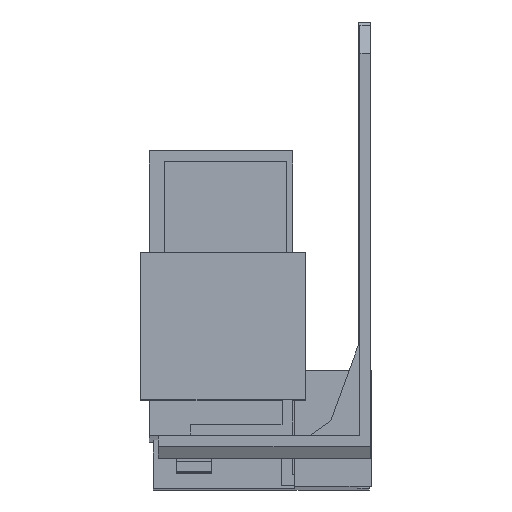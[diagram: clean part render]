
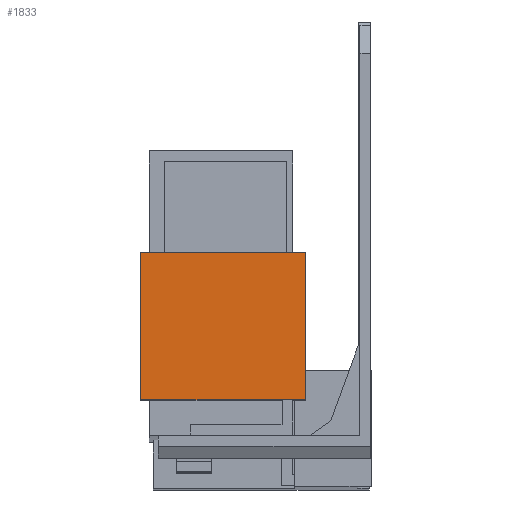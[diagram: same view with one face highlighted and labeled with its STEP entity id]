
A CAD part, front view. The second image highlights one B-rep face of the part: STEP entity #1833.
In plain terms, the highlighted planar face has unit normal (0, -1, 0.003).
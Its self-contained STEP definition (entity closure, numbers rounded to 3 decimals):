
#104 = LINE ( 'NONE', #4071, #111 ) ;
#111 = VECTOR ( 'NONE', #4074, 1000. ) ;
#272 = VECTOR ( 'NONE', #2271, 1000. ) ;
#278 = LINE ( 'NONE', #2264, #272 ) ;
#579 = LINE ( 'NONE', #2593, #581 ) ;
#581 = VECTOR ( 'NONE', #2594, 1000. ) ;
#641 = VECTOR ( 'NONE', #3899, 1000. ) ;
#654 = LINE ( 'NONE', #3896, #641 ) ;
#822 = FACE_OUTER_BOUND ( 'NONE', #989, .T. ) ;
#989 = EDGE_LOOP ( 'NONE', ( #1321, #1322, #1323, #1324 ) ) ;
#1321 = ORIENTED_EDGE ( 'NONE', *, *, #4815, .T. ) ;
#1322 = ORIENTED_EDGE ( 'NONE', *, *, #4305, .F. ) ;
#1323 = ORIENTED_EDGE ( 'NONE', *, *, #4435, .F. ) ;
#1324 = ORIENTED_EDGE ( 'NONE', *, *, #4579, .T. ) ;
#1774 = VERTEX_POINT ( 'NONE', #3344 ) ;
#1790 = VERTEX_POINT ( 'NONE', #3360 ) ;
#1833 = ADVANCED_FACE ( 'NONE', ( #822 ), #3397, .T. ) ;
#2264 = CARTESIAN_POINT ( 'NONE',  ( -9.3, -29.009, -40.322 ) ) ;
#2271 = DIRECTION ( 'NONE',  ( 0., 0.003, 1. ) ) ;
#2593 = CARTESIAN_POINT ( 'NONE',  ( -9.3, -28.952, -19.322 ) ) ;
#2594 = DIRECTION ( 'NONE',  ( -1., 0., 0. ) ) ;
#2763 = VERTEX_POINT ( 'NONE', #3471 ) ;
#2805 = VERTEX_POINT ( 'NONE', #3513 ) ;
#3344 = CARTESIAN_POINT ( 'NONE',  ( -9.3, -29.009, -40.322 ) ) ;
#3360 = CARTESIAN_POINT ( 'NONE',  ( -32.7, -29.009, -40.322 ) ) ;
#3397 = PLANE ( 'NONE',  #4480 ) ;
#3400 = CARTESIAN_POINT ( 'NONE',  ( -9.3, -29.009, -40.322 ) ) ;
#3406 = DIRECTION ( 'NONE',  ( 0., -1., 0.003 ) ) ;
#3407 = DIRECTION ( 'NONE',  ( 1., 0., 0. ) ) ;
#3471 = CARTESIAN_POINT ( 'NONE',  ( -32.7, -28.952, -19.322 ) ) ;
#3513 = CARTESIAN_POINT ( 'NONE',  ( -9.3, -28.952, -19.322 ) ) ;
#3896 = CARTESIAN_POINT ( 'NONE',  ( -32.7, -29.009, -40.322 ) ) ;
#3899 = DIRECTION ( 'NONE',  ( 0., 0.003, 1. ) ) ;
#4071 = CARTESIAN_POINT ( 'NONE',  ( -9.3, -29.009, -40.322 ) ) ;
#4074 = DIRECTION ( 'NONE',  ( -1., 0., 0. ) ) ;
#4305 = EDGE_CURVE ( 'NONE', #1790, #2763, #654, .T. ) ;
#4435 = EDGE_CURVE ( 'NONE', #1774, #1790, #104, .T. ) ;
#4480 = AXIS2_PLACEMENT_3D ( 'NONE', #3400, #3406, #3407 ) ;
#4579 = EDGE_CURVE ( 'NONE', #1774, #2805, #278, .T. ) ;
#4815 = EDGE_CURVE ( 'NONE', #2805, #2763, #579, .T. ) ;
